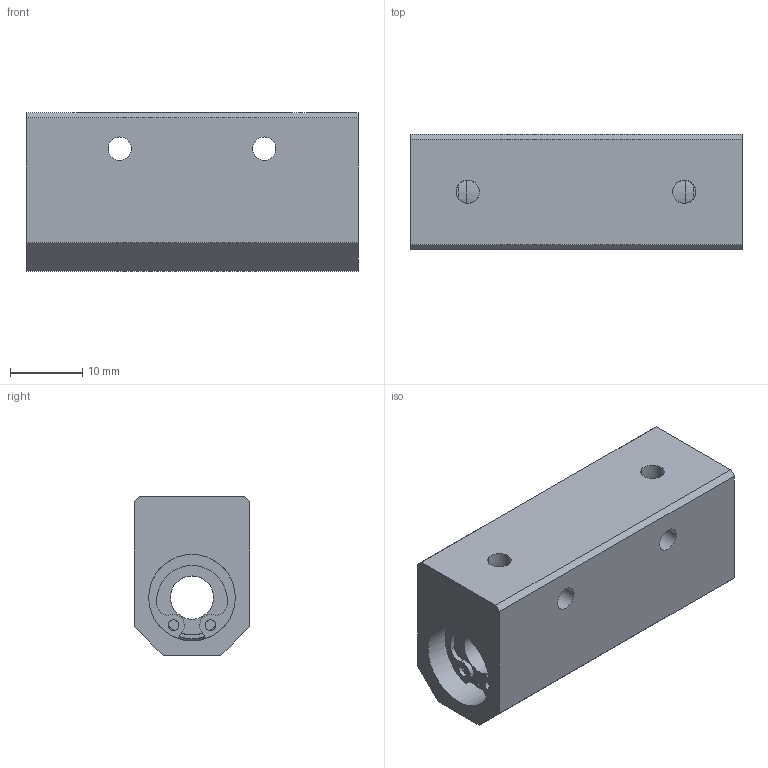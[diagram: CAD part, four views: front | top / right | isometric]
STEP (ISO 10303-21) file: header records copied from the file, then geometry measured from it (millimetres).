
FILE_DESCRIPTION((''),'2;1');
FILE_NAME('D:\製品 (図面)\カタログ用3D\リニアベアリング関連(改)\STEP形式\CHW\CHW6.stp','2010-01-25T09:38:40',('Tsuchiya'),(''),'Autodesk Inventor 10','Autodesk Inventor 10','');
FILE_SCHEMA(('AUTOMOTIVE_DESIGN { 1 0 10303 214 1 1 1 1 }'));
Length unit declared in the file: millimetre
Products named in the file (1): CHW6
Bounding box: 46 x 16 x 22 mm (x, y, z)
Volume: 12839.4 mm3; surface area: 6211 mm2
Topology: 1 solids, 4 shells, 84 faces, 206 edges, 129 vertices
Faces by surface type: bspline 39, plane 24, cylinder 21
Full cylindrical faces by diameter (mm): 1.5 x2, 6 x1, 10.3 x2, 11.5 x2, 12 x5
Entity records: 2724 total; most frequent: CARTESIAN_POINT 958, DIRECTION 342, ORIENTED_EDGE 326, EDGE_CURVE 163, AXIS2_PLACEMENT_3D 143, EDGE_LOOP 140, VERTEX_POINT 115, CIRCLE 97
